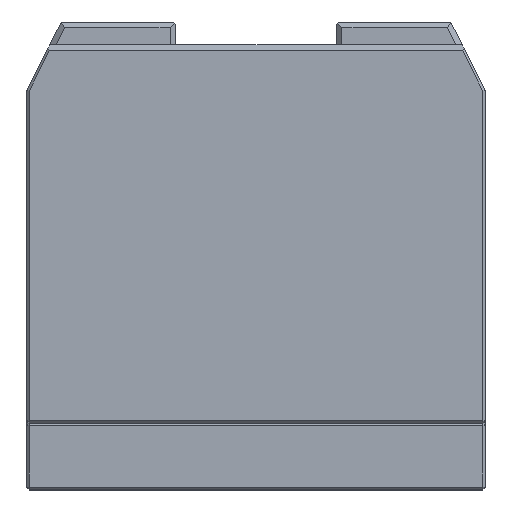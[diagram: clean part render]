
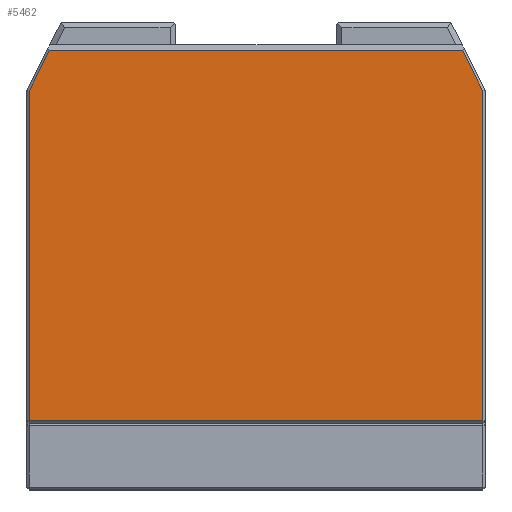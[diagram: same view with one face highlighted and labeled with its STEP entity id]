
A CAD part, top view. The second image highlights one B-rep face of the part: STEP entity #5462.
In plain terms, the highlighted planar face has unit normal (0, 0, 1).
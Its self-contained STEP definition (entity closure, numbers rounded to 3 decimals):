
#195 = VERTEX_POINT ( 'NONE', #903 ) ;
#388 = VERTEX_POINT ( 'NONE', #5642 ) ;
#706 = VECTOR ( 'NONE', #7361, 1000. ) ;
#815 = CARTESIAN_POINT ( 'NONE',  ( -27.024, 20.003, 49.75 ) ) ;
#903 = CARTESIAN_POINT ( 'NONE',  ( -25.25, 23.55, 49.75 ) ) ;
#1153 = ORIENTED_EDGE ( 'NONE', *, *, #3151, .F. ) ;
#1406 = LINE ( 'NONE', #3664, #5956 ) ;
#1416 = CARTESIAN_POINT ( 'NONE',  ( 12.576, 23.55, 49.75 ) ) ;
#1499 = PLANE ( 'NONE',  #5472 ) ;
#1547 = EDGE_LOOP ( 'NONE', ( #1153, #6930, #4157, #6223, #2604, #3686 ) ) ;
#1613 = DIRECTION ( 'NONE',  ( -1., 0., 0. ) ) ;
#1623 = DIRECTION ( 'NONE',  ( 0., 0., 1. ) ) ;
#2591 = LINE ( 'NONE', #3866, #5868 ) ;
#2604 = ORIENTED_EDGE ( 'NONE', *, *, #6436, .T. ) ;
#2851 = FACE_OUTER_BOUND ( 'NONE', #1547, .T. ) ;
#3007 = EDGE_CURVE ( 'NONE', #388, #3340, #1406, .T. ) ;
#3151 = EDGE_CURVE ( 'NONE', #3340, #7554, #4992, .T. ) ;
#3340 = VERTEX_POINT ( 'NONE', #4833 ) ;
#3482 = LINE ( 'NONE', #5449, #4810 ) ;
#3664 = CARTESIAN_POINT ( 'NONE',  ( 12.576, 5.737, 49.75 ) ) ;
#3686 = ORIENTED_EDGE ( 'NONE', *, *, #5792, .F. ) ;
#3709 = DIRECTION ( 'NONE',  ( 0., -1., 0. ) ) ;
#3732 = DIRECTION ( 'NONE',  ( -0.447, 0.894, 0. ) ) ;
#3736 = VECTOR ( 'NONE', #5682, 1000. ) ;
#3866 = CARTESIAN_POINT ( 'NONE',  ( 12.576, 20.003, 49.75 ) ) ;
#3929 = EDGE_CURVE ( 'NONE', #4416, #195, #7102, .T. ) ;
#4075 = CARTESIAN_POINT ( 'NONE',  ( -27.024, -8.75, 49.75 ) ) ;
#4157 = ORIENTED_EDGE ( 'NONE', *, *, #4698, .T. ) ;
#4198 = CARTESIAN_POINT ( 'NONE',  ( 12.576, -8.75, 49.75 ) ) ;
#4416 = VERTEX_POINT ( 'NONE', #5352 ) ;
#4698 = EDGE_CURVE ( 'NONE', #388, #4416, #2591, .T. ) ;
#4810 = VECTOR ( 'NONE', #5430, 1000. ) ;
#4833 = CARTESIAN_POINT ( 'NONE',  ( 12.576, -8.75, 49.75 ) ) ;
#4992 = B_SPLINE_CURVE_WITH_KNOTS ( 'NONE', 1,
 ( #4198, #4075 ),
 .UNSPECIFIED., .F., .F.,
 ( 2, 2 ),
 ( 0., 1. ),
 .UNSPECIFIED. ) ;
#5282 = LINE ( 'NONE', #5535, #3736 ) ;
#5352 = CARTESIAN_POINT ( 'NONE',  ( 10.803, 23.55, 49.75 ) ) ;
#5401 = VERTEX_POINT ( 'NONE', #815 ) ;
#5430 = DIRECTION ( 'NONE',  ( -0.447, -0.894, 0. ) ) ;
#5449 = CARTESIAN_POINT ( 'NONE',  ( -25.25, 23.55, 49.75 ) ) ;
#5462 = ADVANCED_FACE ( 'NONE', ( #2851 ), #1499, .T. ) ;
#5472 = AXIS2_PLACEMENT_3D ( 'NONE', #1416, #1623, #1613 ) ;
#5535 = CARTESIAN_POINT ( 'NONE',  ( -27.024, 5.737, 49.75 ) ) ;
#5642 = CARTESIAN_POINT ( 'NONE',  ( 12.576, 20.003, 49.75 ) ) ;
#5682 = DIRECTION ( 'NONE',  ( 0., 1., 0. ) ) ;
#5792 = EDGE_CURVE ( 'NONE', #7554, #5401, #5282, .T. ) ;
#5868 = VECTOR ( 'NONE', #3732, 1000. ) ;
#5956 = VECTOR ( 'NONE', #3709, 1000. ) ;
#6223 = ORIENTED_EDGE ( 'NONE', *, *, #3929, .T. ) ;
#6436 = EDGE_CURVE ( 'NONE', #195, #5401, #3482, .T. ) ;
#6930 = ORIENTED_EDGE ( 'NONE', *, *, #3007, .F. ) ;
#7102 = LINE ( 'NONE', #7281, #706 ) ;
#7202 = CARTESIAN_POINT ( 'NONE',  ( -27.024, -8.75, 49.75 ) ) ;
#7281 = CARTESIAN_POINT ( 'NONE',  ( -7.224, 23.55, 49.75 ) ) ;
#7361 = DIRECTION ( 'NONE',  ( -1., 0., 0. ) ) ;
#7554 = VERTEX_POINT ( 'NONE', #7202 ) ;
